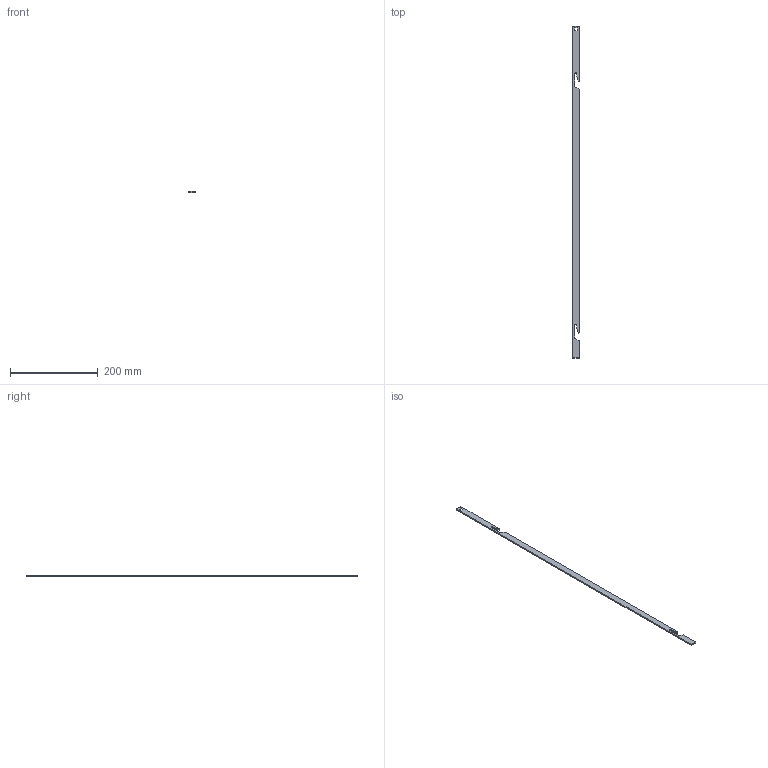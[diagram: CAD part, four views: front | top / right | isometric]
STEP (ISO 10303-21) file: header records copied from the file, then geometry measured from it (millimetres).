
FILE_DESCRIPTION (( 'STEP AP214' ), '1' );
FILE_NAME ('PK490-751.STEP', '2016-09-08T08:22:08', ( '' ), ( '' ), 'SwSTEP 2.0', 'SolidWorks 2015', '' );
FILE_SCHEMA (( 'AUTOMOTIVE_DESIGN' ));
Length unit declared in the file: millimetre
Products named in the file (1): PK490-751
Bounding box: 14 x 758.5 x 3 mm (x, y, z)
Volume: 30286.1 mm3; surface area: 25198.9 mm2
Topology: 1 solids, 1 shells, 24 faces, 66 edges, 44 vertices
Faces by surface type: plane 16, cylinder 8
Entity records: 804 total; most frequent: CARTESIAN_POINT 135, ORIENTED_EDGE 132, DIRECTION 132, EDGE_CURVE 66, VECTOR 50, LINE 50, VERTEX_POINT 44, AXIS2_PLACEMENT_3D 41
